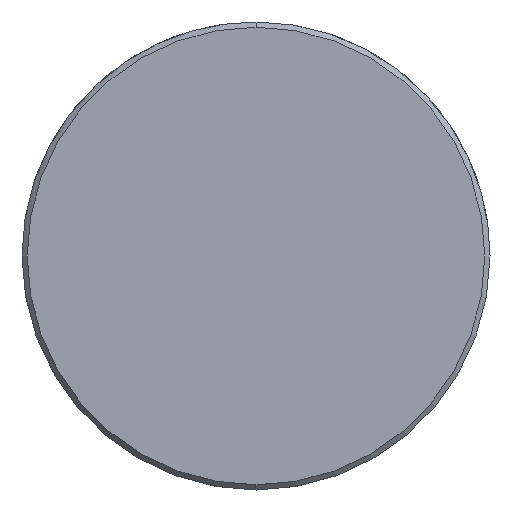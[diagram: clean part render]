
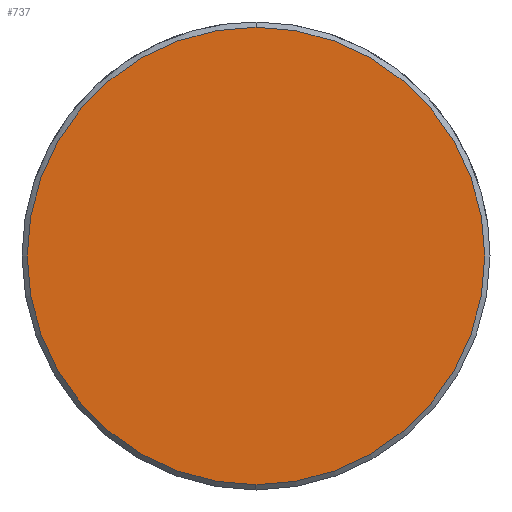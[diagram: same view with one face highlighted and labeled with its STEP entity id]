
A CAD part, left-side view. The second image highlights one B-rep face of the part: STEP entity #737.
In plain terms, the highlighted planar face has unit normal (-1, 0, 0).
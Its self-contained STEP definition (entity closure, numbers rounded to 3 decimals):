
#669=CARTESIAN_POINT('Vertex',(0.,0.,-13.2)) ;
#672=CARTESIAN_POINT('Axis2P3D Location',(0.,0.,0.)) ;
#676=CARTESIAN_POINT('Vertex',(0.,13.2,0.)) ;
#679=CARTESIAN_POINT('Axis2P3D Location',(0.,0.,0.)) ;
#683=CARTESIAN_POINT('Vertex',(0.,0.,13.2)) ;
#705=CARTESIAN_POINT('Axis2P3D Location',(0.,0.,0.)) ;
#709=CARTESIAN_POINT('Vertex',(0.,-13.2,0.)) ;
#712=CARTESIAN_POINT('Axis2P3D Location',(0.,0.,0.)) ;
#726=CARTESIAN_POINT('Axis2P3D Location',(0.,0.,0.)) ;
#673=DIRECTION('Axis2P3D Direction',(1.,0.,-0.)) ;
#680=DIRECTION('Axis2P3D Direction',(1.,0.,-0.)) ;
#706=DIRECTION('Axis2P3D Direction',(1.,0.,-0.)) ;
#713=DIRECTION('Axis2P3D Direction',(1.,0.,-0.)) ;
#727=DIRECTION('Axis2P3D Direction',(1.,0.,-0.)) ;
#728=DIRECTION('Axis2P3D XDirection',(-0.,0.,-1.)) ;
#674=AXIS2_PLACEMENT_3D('Circle Axis2P3D',#672,#673,$) ;
#681=AXIS2_PLACEMENT_3D('Circle Axis2P3D',#679,#680,$) ;
#707=AXIS2_PLACEMENT_3D('Circle Axis2P3D',#705,#706,$) ;
#714=AXIS2_PLACEMENT_3D('Circle Axis2P3D',#712,#713,$) ;
#729=AXIS2_PLACEMENT_3D('Plane Axis2P3D',#726,#727,#728) ;
#732=ORIENTED_EDGE('',*,*,#678,.F.) ;
#733=ORIENTED_EDGE('',*,*,#716,.F.) ;
#734=ORIENTED_EDGE('',*,*,#711,.F.) ;
#735=ORIENTED_EDGE('',*,*,#685,.F.) ;
#737=ADVANCED_FACE('549-24X80',(#736),#730,.F.) ;
#675=CIRCLE('generated circle',#674,13.2) ;
#682=CIRCLE('generated circle',#681,13.2) ;
#708=CIRCLE('generated circle',#707,13.2) ;
#715=CIRCLE('generated circle',#714,13.2) ;
#678=EDGE_CURVE('',#670,#677,#675,.T.) ;
#685=EDGE_CURVE('',#677,#684,#682,.T.) ;
#711=EDGE_CURVE('',#684,#710,#708,.T.) ;
#716=EDGE_CURVE('',#710,#670,#715,.T.) ;
#731=EDGE_LOOP('',(#732,#733,#734,#735)) ;
#736=FACE_OUTER_BOUND('',#731,.T.) ;
#730=PLANE('Plane',#729) ;
#670=VERTEX_POINT('',#669) ;
#677=VERTEX_POINT('',#676) ;
#684=VERTEX_POINT('',#683) ;
#710=VERTEX_POINT('',#709) ;
